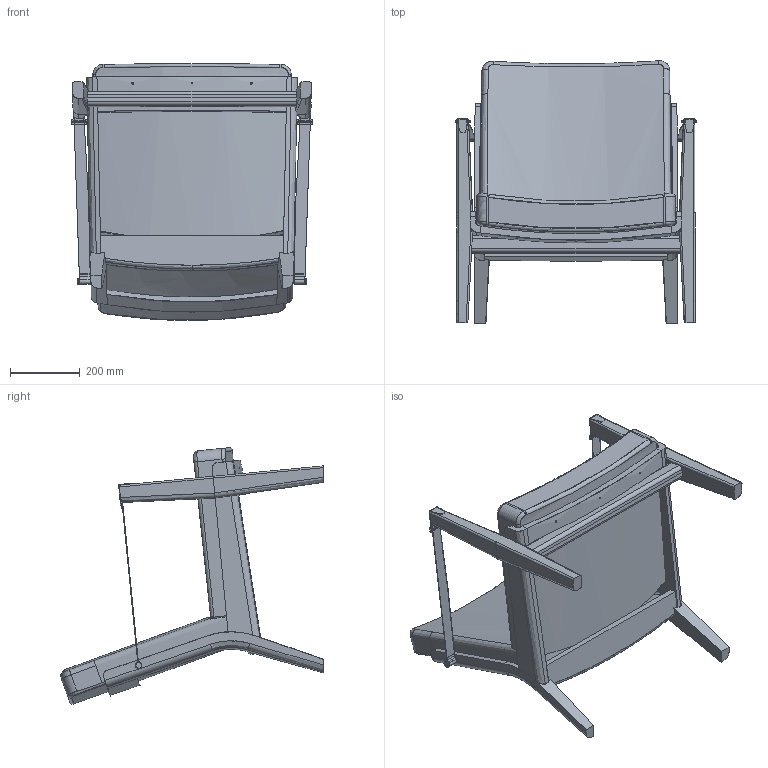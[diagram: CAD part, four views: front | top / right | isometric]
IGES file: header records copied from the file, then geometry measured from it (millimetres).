
Start section: SolidWorks IGES file using analytic representation for surfaces
Global section: file name: C:\Users\Kuma\Desktop\781  Bund Lounge Arm Chair_vb_2016-04-08.IGS; native system: SolidWorks 2016; preprocessor: SolidWorks 2016; author: kuma; date: 160408.151835; units: millimetre
Bounding box: 690.71 x 752.32 x 735.77 mm (x, y, z)
Surface area: 2341243.7 mm2 (no closed solid volume)
Topology: 0 solids, 0 shells, 315 faces, 5994 edges, 5964 vertices
Faces by surface type: bspline 211, revolution 104
